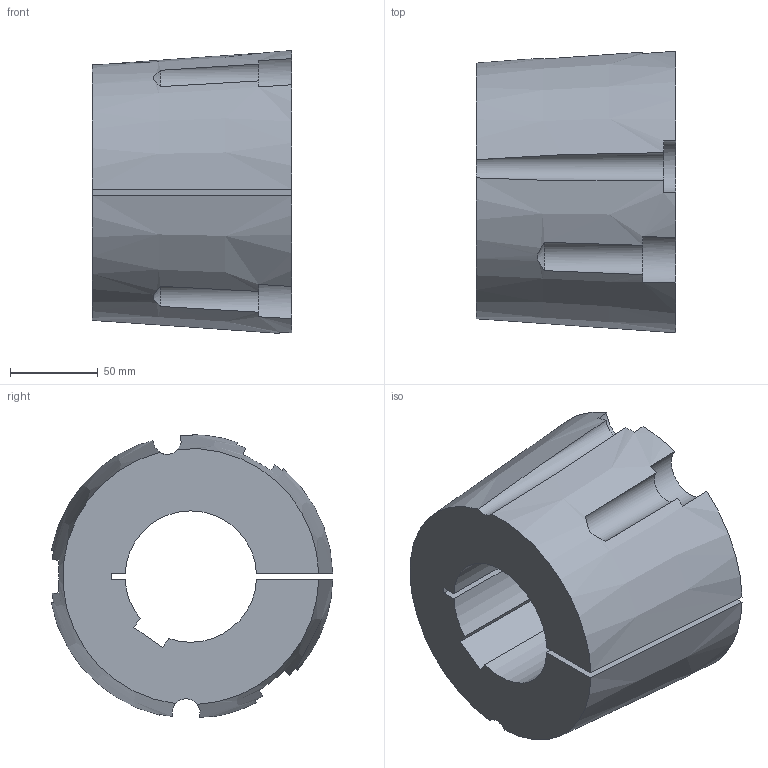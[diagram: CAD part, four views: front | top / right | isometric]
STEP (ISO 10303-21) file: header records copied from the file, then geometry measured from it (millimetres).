
FILE_DESCRIPTION( ( 'STEP AP203' ), '1' );
FILE_NAME( 'D:/export/antriebselemente/spannbuchsen_und_spannsaetze/taper-spannbuchsen_1008_bis_5050/taper-spannbuchsen_62251575Isometric_253.stp', '2018-12-11T11:11:35', ( '' ), ( '' ), ' ', 'PARTsolutions', ' ' );
FILE_SCHEMA( ( 'CONFIG_CONTROL_DESIGN' ) );
Length unit declared in the file: millimetre
Products named in the file (1): _taper-spannbuchsen_62251575
Bounding box: 114 x 160.6 x 161.35 mm (x, y, z)
Volume: 1521577.5 mm3; surface area: 125083.4 mm2
Topology: 1 solids, 1 shells, 34 faces, 96 edges, 64 vertices
Faces by surface type: plane 15, cylinder 13, cone 6
Entity records: 1314 total; most frequent: CARTESIAN_POINT 390, ORIENTED_EDGE 192, DIRECTION 186, EDGE_CURVE 96, AXIS2_PLACEMENT_3D 80, VERTEX_POINT 64, CIRCLE 45, ADVANCED_FACE 34
